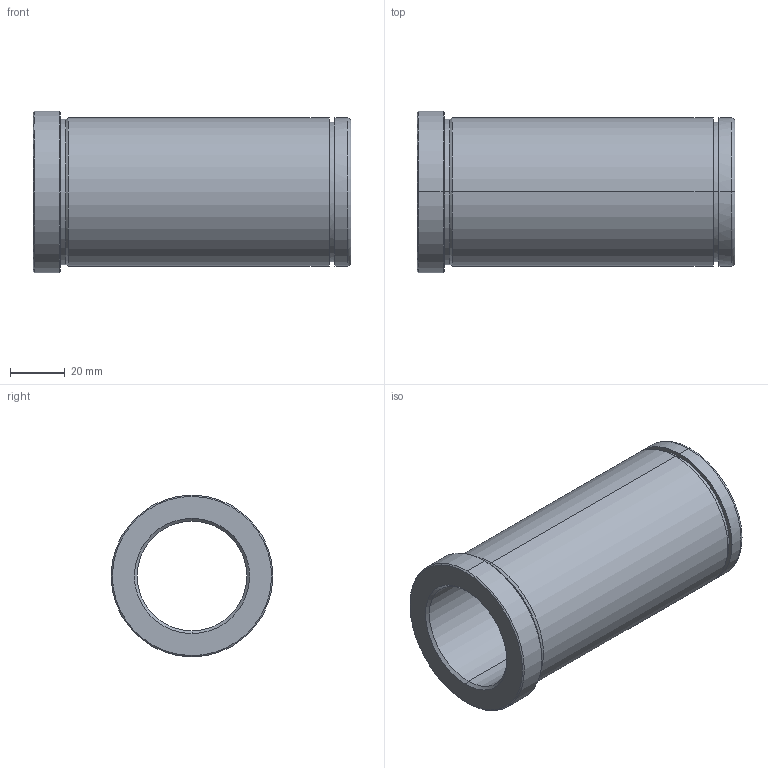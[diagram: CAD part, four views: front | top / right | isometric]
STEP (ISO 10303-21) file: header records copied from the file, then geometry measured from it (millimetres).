
FILE_DESCRIPTION(('CATIA V5 STEP Exchange'),'2;1');
FILE_NAME('C:\Users\Utente\Desktop\IO LAVORO\3D X SITO CF\X SITO\PLASTICA\553\553-40X116.stp','2021-06-03T18:25:41+00:00',('none'),('none'),'CATIA Version 5 Release 20 GA (IN-10)','CATIA V5 STEP AP203','none');
FILE_SCHEMA(('CONFIG_CONTROL_DESIGN'));
Length unit declared in the file: millimetre
Products named in the file (1): 553-40X116
Bounding box: 116 x 59 x 59 mm (x, y, z)
Volume: 123261.3 mm3; surface area: 37539.5 mm2
Topology: 1 solids, 1 shells, 29 faces, 92 edges, 68 vertices
Faces by surface type: cylinder 12, cone 8, plane 5, torus 4
Entity records: 1222 total; most frequent: CARTESIAN_POINT 368, ORIENTED_EDGE 184, DIRECTION 136, EDGE_CURVE 92, AXIS2_PLACEMENT_3D 88, VERTEX_POINT 68, CIRCLE 58, EDGE_LOOP 34
